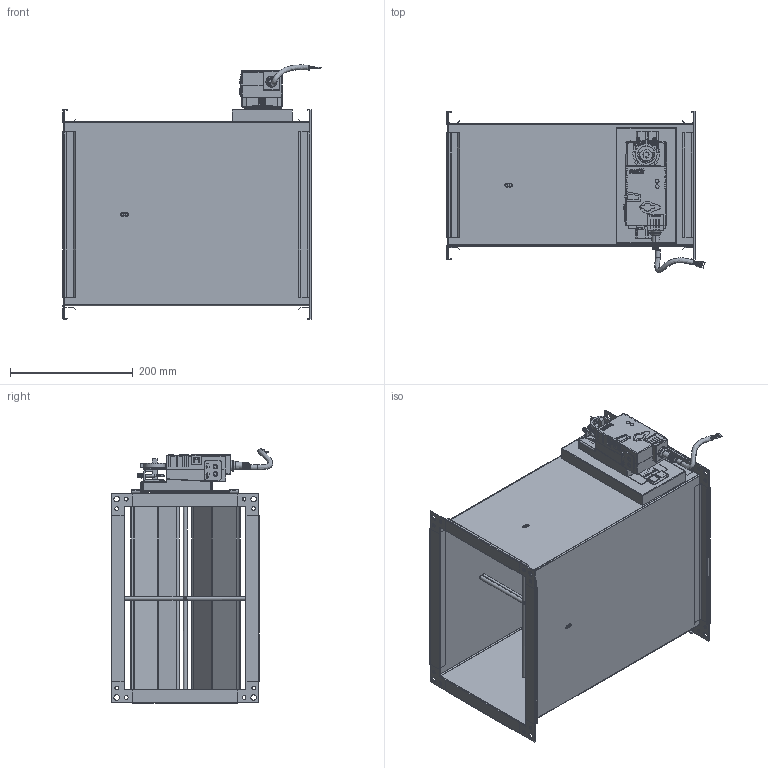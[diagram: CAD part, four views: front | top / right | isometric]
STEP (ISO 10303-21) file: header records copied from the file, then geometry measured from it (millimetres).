
FILE_DESCRIPTION (( 'STEP AP214' ), '1' );
FILE_NAME ('VAV-S300200.STEP', '2025-05-07T13:35:35', ( '' ), ( '' ), 'SwSTEP 2.0', 'SolidWorks 2025', '' );
FILE_SCHEMA (( 'AUTOMOTIVE_DESIGN' ));
Length unit declared in the file: millimetre
Products named in the file (1): VAV-S300200
Bounding box: 420.22 x 263.39 x 413.69 mm (x, y, z)
Surface area: 1420974.3 mm2 (no closed solid volume)
Topology: 0 solids, 58 shells, 2070 faces, 5330 edges, 3385 vertices
Faces by surface type: plane 1523, cylinder 494, bspline 24, sphere 18, cone 10, torus 1
Full cylindrical faces by diameter (mm): 1 x4, 4 x8, 5.876 x4, 6 x5, 6.102 x8, 8 x1, 9 x6, 11 x1, 20 x1, 21 x2
Entity records: 90666 total; most frequent: CARTESIAN_POINT 41564, ORIENTED_EDGE 10425, DIRECTION 6636, EDGE_CURVE 5236, VERTEX_POINT 3355, B_SPLINE_CURVE_WITH_KNOTS 3162, AXIS2_PLACEMENT_3D 2547, EDGE_LOOP 2276
